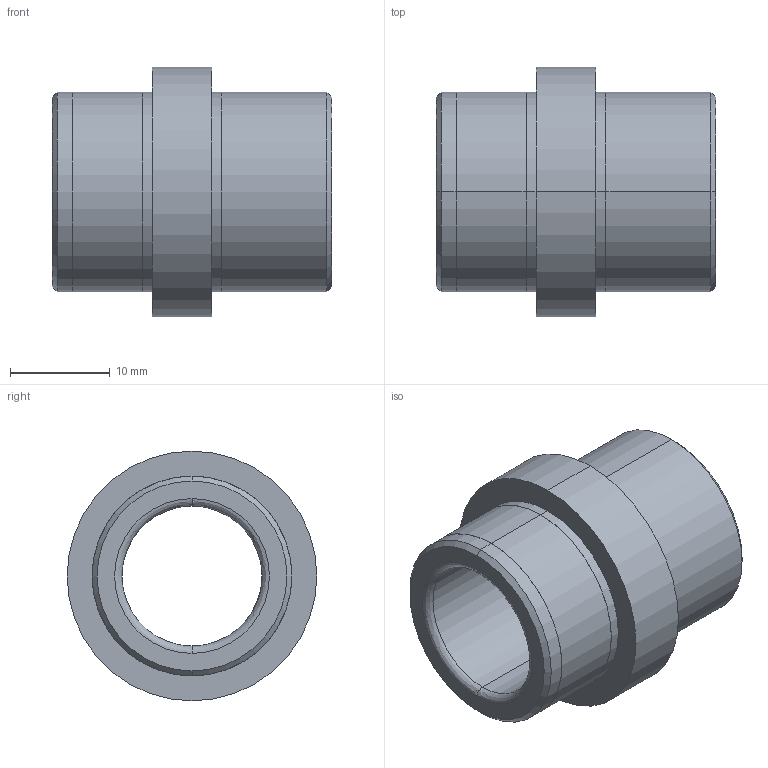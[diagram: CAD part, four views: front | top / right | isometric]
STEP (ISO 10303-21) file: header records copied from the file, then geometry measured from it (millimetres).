
FILE_DESCRIPTION( ( 'STEP AP203' ), '1' );
FILE_NAME( 'D:/Delta 3 D/D22/D22 - 14x16.step', '2002-12-31T23:12:17', ( ' ' ), ( ' ' ), 'XStep 1.0', ' ', ' ' );
FILE_SCHEMA( ( 'CONFIG_CONTROL_DESIGN' ) );
Length unit declared in the file: metre
Products named in the file (1): 1
Bounding box: 28 x 25 x 25 mm (x, y, z)
Volume: 5524.2 mm3; surface area: 3695.9 mm2
Topology: 1 solids, 1 shells, 29 faces, 58 edges, 36 vertices
Faces by surface type: revolution 18, bspline 11
Entity records: 893 total; most frequent: CARTESIAN_POINT 253, ORIENTED_EDGE 116, DIRECTION 110, EDGE_CURVE 58, AXIS2_PLACEMENT_3D 37, EDGE_LOOP 36, VERTEX_POINT 36, CIRCLE 36
